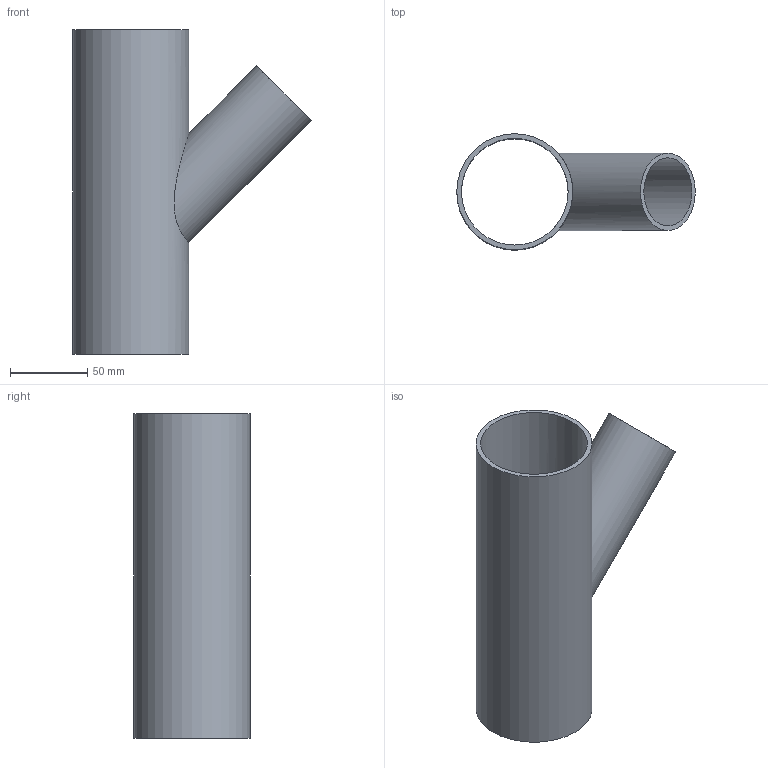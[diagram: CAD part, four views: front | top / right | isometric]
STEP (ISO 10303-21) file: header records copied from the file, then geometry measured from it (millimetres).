
FILE_DESCRIPTION(/* description */ (''),/* implementation_level */ '2;1');
FILE_NAME(/* name */ 'C:\Planerdaten\Export PLA\PRO_101557\stp\365112.stp',/* time_stamp */ '2021-09-30T15:04:47+02:00',/* author */ ('JANAN'),/* organization */ (''),/* preprocessor_version */ 'ST-DEVELOPER v16.13',/* originating_system */ 'Autodesk Inventor 2018',/* authorisation */ '');
FILE_SCHEMA (('AUTOMOTIVE_DESIGN { 1 0 10303 214 3 1 1 }','AP242_MANAGED_MODEL_BASED_3D_ENGINEERING_MIM_LF { 1 0 10303 442 1 1 4 }'));
Length unit declared in the file: millimetre
Products named in the file (1): tmp2E88.tmp
Bounding box: 154.17 x 75 x 210 mm (x, y, z)
Volume: 176702.9 mm3; surface area: 119594.5 mm2
Topology: 1 solids, 1 shells, 7 faces, 17 edges, 12 vertices
Faces by surface type: cylinder 4, plane 3
Full cylindrical faces by diameter (mm): 44 x1, 50 x1, 69 x1, 75 x1
Entity records: 320 total; most frequent: CARTESIAN_POINT 142, DIRECTION 28, EDGE_LOOP 16, ORIENTED_EDGE 16, AXIS2_PLACEMENT_3D 14, FACE_BOUND 9, VERTEX_POINT 8, EDGE_CURVE 8
